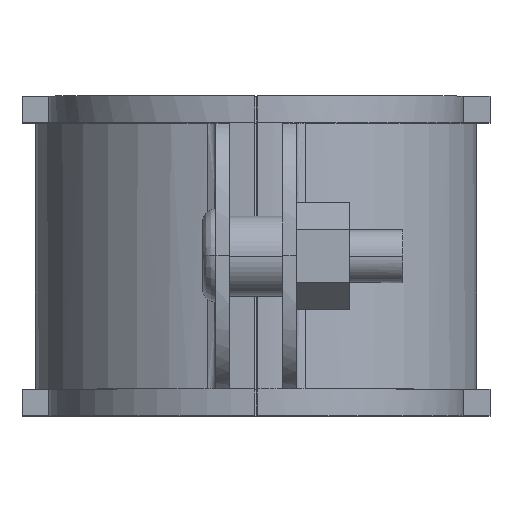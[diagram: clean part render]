
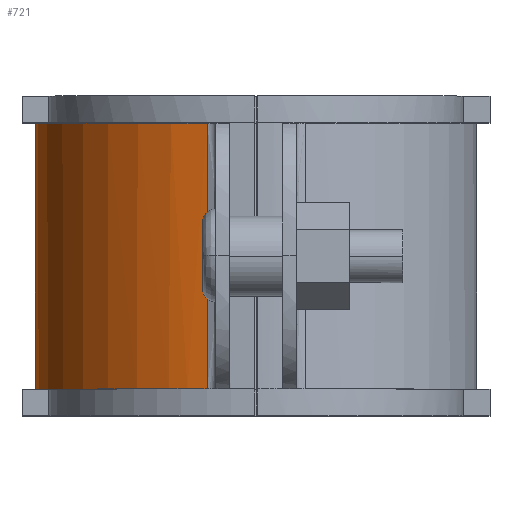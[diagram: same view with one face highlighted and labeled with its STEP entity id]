
A CAD part, top view. The second image highlights one B-rep face of the part: STEP entity #721.
In plain terms, the highlighted free-form (B-spline) face has degree [3, 1] with [4, 2] control points.
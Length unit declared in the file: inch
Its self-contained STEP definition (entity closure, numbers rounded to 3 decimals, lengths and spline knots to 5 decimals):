
#473=EDGE_CURVE('',#1211,#1212,#1213,.T.);
#699=EDGE_CURVE('',#1102,#1553,#1554,.T.);
#721=ADVANCED_FACE('',(#1585),#1586,.T.);
#725=EDGE_CURVE('',#1553,#1212,#1590,.T.);
#857=EDGE_CURVE('',#1211,#1102,#1760,.T.);
#1102=VERTEX_POINT('',#2140);
#1211=VERTEX_POINT('',#2318);
#1212=VERTEX_POINT('',#2319);
#1213=LINE('',#2320,#2321);
#1553=VERTEX_POINT('',#3003);
#1554=LINE('',#3004,#3005);
#1585=FACE_OUTER_BOUND('',#3058,.T.);
#1586=B_SPLINE_SURFACE_WITH_KNOTS('',3,1,((#3059,#3060),(#3061,#3062),(#3063,#3064),(#3065,#3066)),.UNSPECIFIED.,.F.,.F.,.F.,(4,4),(2,2),(-1.0,-0.0),(0.0,1.25),.UNSPECIFIED.);
#1590=B_SPLINE_CURVE_WITH_KNOTS('',3,(#3074,#3075,#3076,#3077),.UNSPECIFIED.,.F.,.F.,(4,4),(0.0,1.0),.UNSPECIFIED.);
#1760=B_SPLINE_CURVE_WITH_KNOTS('',3,(#3397,#3398,#3399,#3400),.UNSPECIFIED.,.F.,.F.,(4,4),(-1.0,-0.0),.UNSPECIFIED.);
#2140=CARTESIAN_POINT('',(0.,1.24627,1.71092));
#2318=CARTESIAN_POINT('',(0.80569,1.24627,2.72196));
#2319=CARTESIAN_POINT('',(0.80569,0.,2.72196));
#2320=CARTESIAN_POINT('',(0.80569,1.25,2.72196));
#2321=VECTOR('',#4160,1.0);
#3003=CARTESIAN_POINT('',(0.,0.,1.71092));
#3004=CARTESIAN_POINT('',(0.,1.25,1.71092));
#3005=VECTOR('',#4677,1.0);
#3058=EDGE_LOOP('',(#4760,#4761,#4762,#4763));
#3059=CARTESIAN_POINT('',(0.80569,1.25,2.72196));
#3060=CARTESIAN_POINT('',(0.80569,0.,2.72196));
#3061=CARTESIAN_POINT('',(0.3442,1.25,2.61732));
#3062=CARTESIAN_POINT('',(0.3442,0.,2.61732));
#3063=CARTESIAN_POINT('',(0.,1.25,2.20439));
#3064=CARTESIAN_POINT('',(0.,0.,2.20439));
#3065=CARTESIAN_POINT('',(0.,1.25,1.71092));
#3066=CARTESIAN_POINT('',(0.,0.,1.71092));
#3074=CARTESIAN_POINT('',(0.,0.,1.71092));
#3075=CARTESIAN_POINT('',(0.,0.,2.20439));
#3076=CARTESIAN_POINT('',(0.3442,0.,2.61732));
#3077=CARTESIAN_POINT('',(0.80569,0.,2.72196));
#3397=CARTESIAN_POINT('',(0.80569,1.24627,2.72196));
#3398=CARTESIAN_POINT('',(0.3442,1.24627,2.61732));
#3399=CARTESIAN_POINT('',(0.,1.24627,2.20439));
#3400=CARTESIAN_POINT('',(0.,1.24627,1.71092));
#4160=DIRECTION('',(0.0,-1.0,0.0));
#4677=DIRECTION('',(0.0,-1.0,0.0));
#4760=ORIENTED_EDGE('',*,*,#857,.T.);
#4761=ORIENTED_EDGE('',*,*,#699,.T.);
#4762=ORIENTED_EDGE('',*,*,#725,.T.);
#4763=ORIENTED_EDGE('',*,*,#473,.F.);
